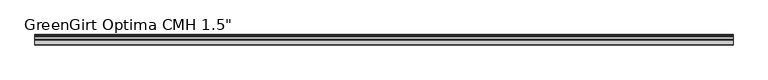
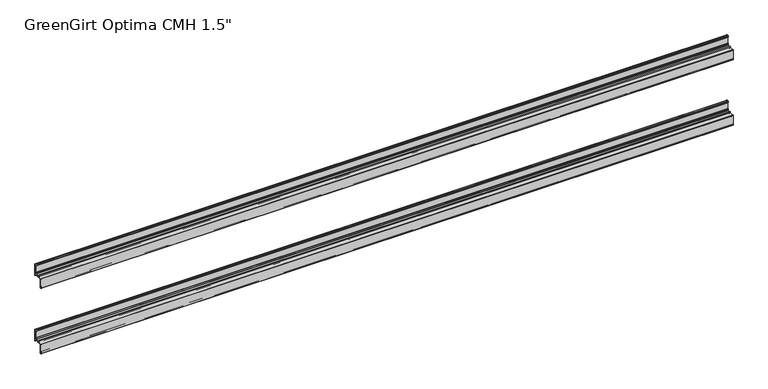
"""IFC4 building model written with IfcOpenShell, lengths in millimetres: fastener geometry."""

from ifc_helpers import new_model, si_unit, frame, origin, place, context, project, spatial, polyline, circle_curve, outline, extrude, source, transform, mapped, element, save
from ifc_brep_helpers import plane_surface, cylinder_surface, revolved_surface, advanced_brep


def fastener_f5cca177(model_context):
    return source(origin(), model_context, "Body", "SolidModel", [
        advanced_brep(
        [(2540.1186361, -2.794, 1390.269), (2540.1186361, -2.794, 1358.9), (2540.1186361, -4.5212, 1358.9), (2540.1186361, -4.5212, 1363.091), (2540.1186361, -6.5532, 1363.091), (2540.1186361, -6.5532, 1358.9), (2540.1186361, -7.3152, 1358.138), (2540.1186361, -17.7601563, 1358.138), (2540.1186361, -17.7601563, 1358.9864433), (2540.1186361, -20.4288947, 1358.9864433), (2540.1186361, -20.4288947, 1358.138), (2540.1186361, -37.3379766, 1358.138), (2540.1186361, -38.0999766, 1357.376), (2540.1186361, -38.1, 1321.5196758), (2540.1186361, -37.3379766, 1320.8), (2540.1186361, -34.4677766, 1320.8), (2540.1186361, -32.4357766, 1322.832), (2540.1186361, -32.4357766, 1325.118), (2540.1186361, -34.4677766, 1325.118), (2540.1186361, -34.4677766, 1324.102), (2540.1186361, -36.1949766, 1324.102), (2540.1186361, -36.1949766, 1355.471), (2540.1186361, -34.4677766, 1355.471), (2540.1186361, -34.4677766, 1351.28), (2540.1186361, -32.4357766, 1351.28), (2540.1186361, -32.4357766, 1355.471), (2540.1186361, -31.6737766, 1356.233), (2540.1186361, -20.4279799, 1356.233), (2540.1186361, -20.4279799, 1355.3840993), (2540.1186361, -17.7601563, 1355.3840993), (2540.1186361, -17.7601563, 1356.233), (2540.1186361, -2.667, 1356.233), (2540.1186361, -1.905, 1355.471), (2540.1186361, -1.905, 1349.375), (2540.1186361, 0.0, 1349.375), (2540.1186361, 0.0, 1392.809), (2540.1186361, -0.762, 1393.571), (2540.1186361, -4.5212, 1393.571), (2540.1186361, -6.5532, 1391.539), (2540.1186361, -6.5532, 1389.253), (2540.1186361, -4.5212, 1389.253), (2540.1186361, -4.5212, 1390.269), (0.0, -2.794, 1390.269), (0.0, -4.5212, 1390.269), (0.0, -4.5212, 1389.253), (0.0, -6.5532, 1389.253), (0.0, -6.5532, 1391.539), (0.0, -4.5212, 1393.571), (0.0, -0.762, 1393.571), (0.0, 0.0, 1392.809), (0.0, 0.0, 1349.375), (0.0, -1.905, 1349.375), (0.0, -1.905, 1355.471), (0.0, -2.667, 1356.233), (0.0, -17.7601563, 1356.233), (0.0, -17.7601563, 1355.3840993), (0.0, -20.4279799, 1355.3840993), (0.0, -20.4279799, 1356.233), (0.0, -31.6737766, 1356.233), (0.0, -32.4357766, 1355.471), (0.0, -32.4357766, 1351.28), (0.0, -34.4677766, 1351.28), (0.0, -34.4677766, 1355.471), (0.0, -36.1949766, 1355.471), (0.0, -36.1949766, 1324.102), (0.0, -34.4677766, 1324.102), (0.0, -34.4677766, 1325.118), (0.0, -32.4357766, 1325.118), (0.0, -32.4357766, 1322.832), (0.0, -34.4677766, 1320.8), (0.0, -37.3379766, 1320.8), (0.0, -38.0999766, 1321.562), (0.0, -38.1, 1357.4033226), (0.0, -37.3379766, 1358.138), (0.0, -20.4288947, 1358.138), (0.0, -20.4288947, 1358.9864433), (0.0, -17.7601563, 1358.9864433), (0.0, -17.7601563, 1358.138), (0.0, -7.3152, 1358.138), (0.0, -6.5532, 1358.9), (0.0, -6.5532, 1363.091), (0.0, -4.5212, 1363.091), (0.0, -4.5212, 1358.9), (0.0, -2.794, 1358.9)],
        [
            (0, 1),
            (1, 2, circle_curve(frame((2540.1186361, -3.6576, 1358.9), z_axis=(-1.0, 0.0, 0.0), x_axis=(0.0, 1.0, 0.0)), 0.8636)),
            (2, 3),
            (3, 4, circle_curve(frame((2540.1186361, -5.5372, 1363.091), z_axis=(1.0, 0.0, 0.0), x_axis=(0.0, 1.0, 0.0)), 1.016)),
            (4, 5),
            (5, 6, circle_curve(frame((2540.1186361, -7.3152, 1358.9), z_axis=(-1.0, 0.0, 0.0), x_axis=(0.0, 1.0, 0.0)), 0.762)),
            (6, 7),
            (7, 8),
            (8, 9, circle_curve(frame((2540.1186361, -19.0945255, 1358.9864433), z_axis=(1.0, 0.0, 0.0), x_axis=(0.0, 1.0, 0.0)), 1.3343692)),
            (9, 10),
            (10, 11),
            (11, 12, circle_curve(frame((2540.1186361, -37.3379766, 1357.376), z_axis=(1.0, 0.0, 0.0), x_axis=(0.0, 1.0, 0.0)), 0.762)),
            (12, 13),
            (13, 14, circle_curve(frame((2540.1186361, -37.3379766, 1321.562), z_axis=(1.0, 0.0, 0.0), x_axis=(0.0, 1.0, 0.0)), 0.762)),
            (14, 15),
            (15, 16, circle_curve(frame((2540.1186361, -34.4677766, 1322.832), z_axis=(1.0, 0.0, 0.0), x_axis=(0.0, 1.0, 0.0)), 2.032)),
            (16, 17),
            (17, 18, circle_curve(frame((2540.1186361, -33.4517766, 1325.118), z_axis=(1.0, 0.0, 0.0), x_axis=(0.0, 1.0, 0.0)), 1.016)),
            (18, 19),
            (19, 20, circle_curve(frame((2540.1186361, -35.3313766, 1324.102), z_axis=(-1.0, 0.0, 0.0), x_axis=(0.0, 1.0, 0.0)), 0.8636)),
            (20, 21),
            (21, 22, circle_curve(frame((2540.1186361, -35.3313766, 1355.471), z_axis=(-1.0, 0.0, 0.0), x_axis=(0.0, 1.0, 0.0)), 0.8636)),
            (22, 23),
            (23, 24, circle_curve(frame((2540.1186361, -33.4517766, 1351.28), z_axis=(1.0, 0.0, 0.0), x_axis=(0.0, 1.0, 0.0)), 1.016)),
            (24, 25),
            (25, 26, circle_curve(frame((2540.1186361, -31.6737766, 1355.471), z_axis=(-1.0, 0.0, 0.0), x_axis=(0.0, 1.0, 0.0)), 0.762)),
            (26, 27),
            (27, 28),
            (28, 29, circle_curve(frame((2540.1186361, -19.0940681, 1355.3840993), z_axis=(1.0, 0.0, 0.0), x_axis=(0.0, 1.0, 0.0)), 1.3339118)),
            (29, 30),
            (30, 31),
            (31, 32, circle_curve(frame((2540.1186361, -2.667, 1355.471), z_axis=(-1.0, 0.0, 0.0), x_axis=(0.0, 1.0, 0.0)), 0.762)),
            (32, 33),
            (33, 34, circle_curve(frame((2540.1186361, -0.9525, 1349.375), z_axis=(1.0, 0.0, 0.0), x_axis=(0.0, 1.0, 0.0)), 0.9525)),
            (34, 35),
            (35, 36, circle_curve(frame((2540.1186361, -0.762, 1392.809), z_axis=(1.0, 0.0, 0.0), x_axis=(0.0, 1.0, 0.0)), 0.762)),
            (36, 37),
            (37, 38, circle_curve(frame((2540.1186361, -4.5212, 1391.539), z_axis=(1.0, 0.0, 0.0), x_axis=(0.0, 1.0, 0.0)), 2.032)),
            (38, 39),
            (39, 40, circle_curve(frame((2540.1186361, -5.5372, 1389.253), z_axis=(1.0, 0.0, 0.0), x_axis=(0.0, 1.0, 0.0)), 1.016)),
            (40, 41),
            (41, 0, circle_curve(frame((2540.1186361, -3.6576, 1390.269), z_axis=(-1.0, 0.0, 0.0), x_axis=(0.0, 1.0, 0.0)), 0.8636)),
            (42, 43, circle_curve(frame((0.0, -3.6576, 1390.269), z_axis=(1.0, 0.0, 0.0), x_axis=(0.0, 1.0, 0.0)), 0.8636)),
            (43, 44),
            (44, 45, circle_curve(frame((0.0, -5.5372, 1389.253), z_axis=(-1.0, 0.0, 0.0), x_axis=(0.0, 1.0, 0.0)), 1.016)),
            (45, 46),
            (46, 47, circle_curve(frame((0.0, -4.5212, 1391.539), z_axis=(-1.0, 0.0, 0.0), x_axis=(0.0, 1.0, 0.0)), 2.032)),
            (47, 48),
            (48, 49, circle_curve(frame((0.0, -0.762, 1392.809), z_axis=(-1.0, 0.0, 0.0), x_axis=(0.0, 1.0, 0.0)), 0.762)),
            (49, 50),
            (50, 51, circle_curve(frame((0.0, -0.9525, 1349.375), z_axis=(-1.0, 0.0, 0.0), x_axis=(0.0, 1.0, 0.0)), 0.9525)),
            (51, 52),
            (52, 53, circle_curve(frame((0.0, -2.667, 1355.471), z_axis=(1.0, 0.0, 0.0), x_axis=(0.0, 1.0, 0.0)), 0.762)),
            (53, 54),
            (54, 55),
            (55, 56, circle_curve(frame((0.0, -19.0940681, 1355.3840993), z_axis=(-1.0, 0.0, 0.0), x_axis=(0.0, 1.0, 0.0)), 1.3339118)),
            (56, 57),
            (57, 58),
            (58, 59, circle_curve(frame((0.0, -31.6737766, 1355.471), z_axis=(1.0, 0.0, 0.0), x_axis=(0.0, 1.0, 0.0)), 0.762)),
            (59, 60),
            (60, 61, circle_curve(frame((0.0, -33.4517766, 1351.28), z_axis=(-1.0, 0.0, 0.0), x_axis=(0.0, 1.0, 0.0)), 1.016)),
            (61, 62),
            (62, 63, circle_curve(frame((0.0, -35.3313766, 1355.471), z_axis=(1.0, 0.0, 0.0), x_axis=(0.0, 1.0, 0.0)), 0.8636)),
            (63, 64),
            (64, 65, circle_curve(frame((0.0, -35.3313766, 1324.102), z_axis=(1.0, 0.0, 0.0), x_axis=(0.0, 1.0, 0.0)), 0.8636)),
            (65, 66),
            (66, 67, circle_curve(frame((0.0, -33.4517766, 1325.118), z_axis=(-1.0, 0.0, 0.0), x_axis=(0.0, 1.0, 0.0)), 1.016)),
            (67, 68),
            (68, 69, circle_curve(frame((0.0, -34.4677766, 1322.832), z_axis=(-1.0, 0.0, 0.0), x_axis=(0.0, 1.0, 0.0)), 2.032)),
            (69, 70),
            (70, 71, circle_curve(frame((0.0, -37.3379766, 1321.562), z_axis=(-1.0, 0.0, 0.0), x_axis=(0.0, 1.0, 0.0)), 0.762)),
            (71, 72),
            (72, 73, circle_curve(frame((0.0, -37.3379766, 1357.376), z_axis=(-1.0, 0.0, 0.0), x_axis=(0.0, 1.0, 0.0)), 0.762)),
            (73, 74),
            (74, 75),
            (75, 76, circle_curve(frame((0.0, -19.0945255, 1358.9864433), z_axis=(-1.0, 0.0, 0.0), x_axis=(0.0, 1.0, 0.0)), 1.3343692)),
            (76, 77),
            (77, 78),
            (78, 79, circle_curve(frame((0.0, -7.3152, 1358.9), z_axis=(1.0, 0.0, 0.0), x_axis=(0.0, 1.0, 0.0)), 0.762)),
            (79, 80),
            (80, 81, circle_curve(frame((0.0, -5.5372, 1363.091), z_axis=(-1.0, 0.0, 0.0), x_axis=(0.0, 1.0, 0.0)), 1.016)),
            (81, 82),
            (82, 83, circle_curve(frame((0.0, -3.6576, 1358.9), z_axis=(1.0, 0.0, 0.0), x_axis=(0.0, 1.0, 0.0)), 0.8636)),
            (83, 42),
            (0, 42),
            (83, 1),
            (82, 2),
            (81, 3),
            (80, 4),
            (79, 5),
            (78, 6),
            (77, 7),
            (76, 8),
            (75, 9),
            (74, 10),
            (73, 11),
            (72, 12),
            (71, 13),
            (70, 14),
            (69, 15),
            (68, 16),
            (67, 17),
            (66, 18),
            (65, 19),
            (64, 20),
            (63, 21),
            (62, 22),
            (61, 23),
            (60, 24),
            (59, 25),
            (58, 26),
            (57, 27),
            (56, 28),
            (55, 29),
            (54, 30),
            (53, 31),
            (52, 32),
            (51, 33),
            (50, 34),
            (49, 35),
            (48, 36),
            (47, 37),
            (46, 38),
            (45, 39),
            (44, 40),
            (43, 41),
        ],
        [
            plane_surface(frame((2540.1186361, -2.794, 1358.9), z_axis=(1.0, 0.0, 0.0), x_axis=(0.0, 0.0, -1.0))),
            plane_surface(frame((0.0, -2.794, 1358.9), z_axis=(-1.0, 0.0, 0.0), x_axis=(0.0, 0.0, 1.0))),
            plane_surface(frame((2540.1186361, -2.794, 1390.269), z_axis=(0.0, -1.0, 0.0), x_axis=(-1.0, 0.0, 0.0))),
            revolved_surface(polyline([(0.0, -2.794, 1358.9), (2540.1186361, -2.794, 1358.9)]), (0.0, -3.6576, 1358.9), (-1.0, 0.0, 0.0)),
            plane_surface(frame((2540.1186361, -4.5212, 1358.9), z_axis=(0.0, 1.0, 0.0), x_axis=(-1.0, 0.0, 0.0))),
            cylinder_surface(frame((0.0, -5.5372, 1363.091), z_axis=(1.0, 0.0, 0.0), x_axis=(0.0, 1.0, 0.0)), 1.016),
            plane_surface(frame((2540.1186361, -6.5532, 1363.091), z_axis=(0.0, -1.0, 0.0), x_axis=(-1.0, 0.0, 0.0))),
            revolved_surface(polyline([(0.0, -6.5532, 1358.9), (2540.1186361, -6.5532, 1358.9)]), (0.0, -7.3152, 1358.9), (-1.0, 0.0, 0.0)),
            plane_surface(frame((2540.1186361, -7.3152, 1358.138), z_axis=(0.0, 0.0, 1.0), x_axis=(-1.0, 0.0, 0.0))),
            plane_surface(frame((2540.1186361, -17.7601563, 1358.138), z_axis=(0.0, 1.0, 0.0), x_axis=(-1.0, 0.0, 0.0))),
            cylinder_surface(frame((0.0, -19.0945255, 1358.9864433), z_axis=(1.0, 0.0, 0.0), x_axis=(0.0, 1.0, 0.0)), 1.3343692),
            plane_surface(frame((2540.1186361, -20.4288947, 1358.9864433), z_axis=(0.0, -1.0, 0.0), x_axis=(-1.0, 0.0, 0.0))),
            plane_surface(frame((2540.1186361, -20.4288947, 1358.138), z_axis=(0.0, 0.0, 1.0), x_axis=(-1.0, 0.0, 0.0))),
            cylinder_surface(frame((0.0, -37.3379766, 1357.376), z_axis=(1.0, 0.0, 0.0), x_axis=(0.0, 1.0, 0.0)), 0.762),
            plane_surface(frame((2540.1186361, -38.1, 1357.4033226), z_axis=(0.0, -1.0, 0.0), x_axis=(-1.0, 0.0, 0.0))),
            cylinder_surface(frame((0.0, -37.3379766, 1321.562), z_axis=(1.0, 0.0, 0.0), x_axis=(0.0, 1.0, 0.0)), 0.762),
            plane_surface(frame((2540.1186361, -37.3379766, 1320.8), z_axis=(0.0, 1.174281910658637e-11, -1.0), x_axis=(-1.0, 0.0, 0.0))),
            cylinder_surface(frame((0.0, -34.4677766, 1322.832), z_axis=(1.0, 0.0, 0.0), x_axis=(0.0, 1.0, 0.0)), 2.032),
            plane_surface(frame((2540.1186361, -32.4357766, 1322.832), z_axis=(0.0, 1.0, 7.57912251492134e-12), x_axis=(-1.0, 0.0, 0.0))),
            cylinder_surface(frame((0.0, -33.4517766, 1325.118), z_axis=(1.0, 0.0, 0.0), x_axis=(0.0, 1.0, 0.0)), 1.016),
            plane_surface(frame((2540.1186361, -34.4677766, 1325.118), z_axis=(0.0, -1.0, -1.7053025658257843e-11), x_axis=(-1.0, 0.0, 0.0))),
            revolved_surface(polyline([(0.0, -34.4677766, 1324.102), (2540.1186361, -34.4677766, 1324.102)]), (0.0, -35.3313766, 1324.102), (-1.0, 0.0, 0.0)),
            plane_surface(frame((2540.1186361, -36.1949766, 1324.102), z_axis=(0.0, 1.0, 0.0), x_axis=(-1.0, 0.0, 0.0))),
            revolved_surface(polyline([(0.0, -34.4677766, 1355.471), (2540.1186361, -34.4677766, 1355.471)]), (0.0, -35.3313766, 1355.471), (-1.0, 0.0, 0.0)),
            plane_surface(frame((2540.1186361, -34.4677766, 1355.471), z_axis=(0.0, -1.0, 0.0), x_axis=(-1.0, 0.0, 0.0))),
            cylinder_surface(frame((0.0, -33.4517766, 1351.28), z_axis=(1.0, 0.0, 0.0), x_axis=(0.0, 1.0, 0.0)), 1.016),
            plane_surface(frame((2540.1186361, -32.4357766, 1351.28), z_axis=(0.0, 1.0, 0.0), x_axis=(-1.0, 0.0, 0.0))),
            revolved_surface(polyline([(0.0, -30.9117766, 1355.471), (2540.1186361, -30.9117766, 1355.471)]), (0.0, -31.6737766, 1355.471), (-1.0, 0.0, 0.0)),
            plane_surface(frame((2540.1186361, -31.6737766, 1356.233), z_axis=(0.0, 0.0, -1.0), x_axis=(-1.0, 0.0, 0.0))),
            plane_surface(frame((2540.1186361, -20.4279799, 1356.233), z_axis=(0.0, -1.0, 0.0), x_axis=(-1.0, 0.0, 0.0))),
            cylinder_surface(frame((0.0, -19.0940681, 1355.3840993), z_axis=(1.0, 0.0, 0.0), x_axis=(0.0, 1.0, 0.0)), 1.3339118),
            plane_surface(frame((2540.1186361, -17.7601563, 1355.3840993), z_axis=(0.0, 1.0, 0.0), x_axis=(-1.0, 0.0, 0.0))),
            plane_surface(frame((2540.1186361, -17.7601563, 1356.233), z_axis=(0.0, 0.0, -1.0), x_axis=(-1.0, 0.0, 0.0))),
            revolved_surface(polyline([(0.0, -1.9049999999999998, 1355.471), (2540.1186361, -1.9049999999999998, 1355.471)]), (0.0, -2.667, 1355.471), (-1.0, 0.0, 0.0)),
            plane_surface(frame((2540.1186361, -1.905, 1355.471), z_axis=(0.0, -1.0, 0.0), x_axis=(-1.0, 0.0, 0.0))),
            cylinder_surface(frame((0.0, -0.9525, 1349.375), z_axis=(1.0, 0.0, 0.0), x_axis=(0.0, 1.0, 0.0)), 0.9525),
            plane_surface(frame((2540.1186361, 0.0, 1349.375), z_axis=(0.0, 1.0, 0.0), x_axis=(-1.0, 0.0, 0.0))),
            cylinder_surface(frame((0.0, -0.762, 1392.809), z_axis=(1.0, 0.0, 0.0), x_axis=(0.0, 1.0, 0.0)), 0.762),
            plane_surface(frame((2540.1186361, -0.762, 1393.571), z_axis=(0.0, 2.6818637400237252e-11, 1.0), x_axis=(-1.0, 0.0, 0.0))),
            cylinder_surface(frame((0.0, -4.5212, 1391.539), z_axis=(1.0, 0.0, 0.0), x_axis=(0.0, 1.0, 0.0)), 2.032),
            plane_surface(frame((2540.1186361, -6.5532, 1391.539), z_axis=(0.0, -1.0, 0.0), x_axis=(-1.0, 0.0, 0.0))),
            cylinder_surface(frame((0.0, -5.5372, 1389.253), z_axis=(1.0, 0.0, 0.0), x_axis=(0.0, 1.0, 0.0)), 1.016),
            plane_surface(frame((2540.1186361, -4.5212, 1389.253), z_axis=(0.0, 1.0, 0.0), x_axis=(-1.0, 0.0, 0.0))),
            revolved_surface(polyline([(0.0, -2.794, 1390.269), (2540.1186361, -2.794, 1390.269)]), (0.0, -3.6576, 1390.269), (-1.0, 0.0, 0.0)),
        ],
        [
            (0, [[1, 2, 3, 4, 5, 6, 7, 8, 9, 10, 11, 12, 13, 14, 15, 16, 17, 18, 19, 20, 21, 22, 23, 24, 25, 26, 27, 28, 29, 30, 31, 32, 33, 34, 35, 36, 37, 38, 39, 40, 41, 42]]),
            (1, [[43, 44, 45, 46, 47, 48, 49, 50, 51, 52, 53, 54, 55, 56, 57, 58, 59, 60, 61, 62, 63, 64, 65, 66, 67, 68, 69, 70, 71, 72, 73, 74, 75, 76, 77, 78, 79, 80, 81, 82, 83, 84]]),
            (2, [[-1, 85, -84, 86]]),
            (3, [[-2, -86, -83, 87]]),
            (4, [[-3, -87, -82, 88]]),
            (5, [[-4, -88, -81, 89]]),
            (6, [[-5, -89, -80, 90]]),
            (7, [[-6, -90, -79, 91]]),
            (8, [[-7, -91, -78, 92]]),
            (9, [[-8, -92, -77, 93]]),
            (10, [[-9, -93, -76, 94]]),
            (11, [[-10, -94, -75, 95]]),
            (12, [[-11, -95, -74, 96]]),
            (13, [[-12, -96, -73, 97]]),
            (14, [[-13, -97, -72, 98]]),
            (15, [[-14, -98, -71, 99]]),
            (16, [[-15, -99, -70, 100]]),
            (17, [[-16, -100, -69, 101]]),
            (18, [[-17, -101, -68, 102]]),
            (19, [[-18, -102, -67, 103]]),
            (20, [[-19, -103, -66, 104]]),
            (21, [[-20, -104, -65, 105]]),
            (22, [[-21, -105, -64, 106]]),
            (23, [[-22, -106, -63, 107]]),
            (24, [[-23, -107, -62, 108]]),
            (25, [[-24, -108, -61, 109]]),
            (26, [[-25, -109, -60, 110]]),
            (27, [[-26, -110, -59, 111]]),
            (28, [[-27, -111, -58, 112]]),
            (29, [[-28, -112, -57, 113]]),
            (30, [[-29, -113, -56, 114]]),
            (31, [[-30, -114, -55, 115]]),
            (32, [[-31, -115, -54, 116]]),
            (33, [[-32, -116, -53, 117]]),
            (34, [[-33, -117, -52, 118]]),
            (35, [[-34, -118, -51, 119]]),
            (36, [[-35, -119, -50, 120]]),
            (37, [[-36, -120, -49, 121]]),
            (38, [[-37, -121, -48, 122]]),
            (39, [[-38, -122, -47, 123]]),
            (40, [[-39, -123, -46, 124]]),
            (41, [[-40, -124, -45, 125]]),
            (42, [[-41, -125, -44, 126]]),
            (43, [[-42, -126, -43, -85]]),
        ],
    ),
        extrude(outline(polyline([(2540.1186361, -2.794), (2540.1186361, -4.5212), (0.0, -4.5212), (0.0, -2.794), (2540.1186361, -2.794)])), frame((0.0, 0.0, 1359.281), z_axis=(0.0, 0.0, 1.0), x_axis=(1.0, 0.0, 0.0)), (0.0, 0.0, 1.0), 30.988),
        extrude(outline(polyline([(2540.1186361, -34.4677766), (2540.1186361, -36.1949766), (0.0, -36.1949766), (0.0, -34.4677766), (2540.1186361, -34.4677766)])), frame((0.0, 0.0, 1324.102), z_axis=(0.0, 0.0, 1.0), x_axis=(1.0, 0.0, 0.0)), (0.0, 0.0, 1.0), 30.988),
        advanced_brep(
        [(2540.1186361, -2.794, 1136.269), (2540.1186361, -2.794, 1104.9), (2540.1186361, -4.5212, 1104.9), (2540.1186361, -4.5212, 1109.091), (2540.1186361, -6.5532, 1109.091), (2540.1186361, -6.5532, 1104.9), (2540.1186361, -7.3152, 1104.138), (2540.1186361, -17.7601563, 1104.138), (2540.1186361, -17.7601563, 1104.9864433), (2540.1186361, -20.4288947, 1104.9864433), (2540.1186361, -20.4288947, 1104.138), (2540.1186361, -37.3379766, 1104.138), (2540.1186361, -38.0999766, 1103.376), (2540.1186361, -38.1, 1067.5196758), (2540.1186361, -37.3379766, 1066.8), (2540.1186361, -34.4677766, 1066.8), (2540.1186361, -32.4357766, 1068.832), (2540.1186361, -32.4357766, 1071.118), (2540.1186361, -34.4677766, 1071.118), (2540.1186361, -34.4677766, 1070.102), (2540.1186361, -36.1949766, 1070.102), (2540.1186361, -36.1949766, 1101.471), (2540.1186361, -34.4677766, 1101.471), (2540.1186361, -34.4677766, 1097.28), (2540.1186361, -32.4357766, 1097.28), (2540.1186361, -32.4357766, 1101.471), (2540.1186361, -31.6737766, 1102.233), (2540.1186361, -20.4279799, 1102.233), (2540.1186361, -20.4279799, 1101.3840993), (2540.1186361, -17.7601563, 1101.3840993), (2540.1186361, -17.7601563, 1102.233), (2540.1186361, -2.667, 1102.233), (2540.1186361, -1.905, 1101.471), (2540.1186361, -1.905, 1095.375), (2540.1186361, 0.0, 1095.375), (2540.1186361, 0.0, 1138.809), (2540.1186361, -0.762, 1139.571), (2540.1186361, -4.5212, 1139.571), (2540.1186361, -6.5532, 1137.539), (2540.1186361, -6.5532, 1135.253), (2540.1186361, -4.5212, 1135.253), (2540.1186361, -4.5212, 1136.269), (0.0, -2.794, 1136.269), (0.0, -4.5212, 1136.269), (0.0, -4.5212, 1135.253), (0.0, -6.5532, 1135.253), (0.0, -6.5532, 1137.539), (0.0, -4.5212, 1139.571), (0.0, -0.762, 1139.571), (0.0, 0.0, 1138.809), (0.0, 0.0, 1095.375), (0.0, -1.905, 1095.375), (0.0, -1.905, 1101.471), (0.0, -2.667, 1102.233), (0.0, -17.7601563, 1102.233), (0.0, -17.7601563, 1101.3840993), (0.0, -20.4279799, 1101.3840993), (0.0, -20.4279799, 1102.233), (0.0, -31.6737766, 1102.233), (0.0, -32.4357766, 1101.471), (0.0, -32.4357766, 1097.28), (0.0, -34.4677766, 1097.28), (0.0, -34.4677766, 1101.471), (0.0, -36.1949766, 1101.471), (0.0, -36.1949766, 1070.102), (0.0, -34.4677766, 1070.102), (0.0, -34.4677766, 1071.118), (0.0, -32.4357766, 1071.118), (0.0, -32.4357766, 1068.832), (0.0, -34.4677766, 1066.8), (0.0, -37.3379766, 1066.8), (0.0, -38.0999766, 1067.562), (0.0, -38.1, 1103.4033226), (0.0, -37.3379766, 1104.138), (0.0, -20.4288947, 1104.138), (0.0, -20.4288947, 1104.9864433), (0.0, -17.7601563, 1104.9864433), (0.0, -17.7601563, 1104.138), (0.0, -7.3152, 1104.138), (0.0, -6.5532, 1104.9), (0.0, -6.5532, 1109.091), (0.0, -4.5212, 1109.091), (0.0, -4.5212, 1104.9), (0.0, -2.794, 1104.9)],
        [
            (0, 1),
            (1, 2, circle_curve(frame((2540.1186361, -3.6576, 1104.9), z_axis=(-1.0, 0.0, 0.0), x_axis=(0.0, 1.0, 0.0)), 0.8636)),
            (2, 3),
            (3, 4, circle_curve(frame((2540.1186361, -5.5372, 1109.091), z_axis=(1.0, 0.0, 0.0), x_axis=(0.0, 1.0, 0.0)), 1.016)),
            (4, 5),
            (5, 6, circle_curve(frame((2540.1186361, -7.3152, 1104.9), z_axis=(-1.0, 0.0, 0.0), x_axis=(0.0, 1.0, 0.0)), 0.762)),
            (6, 7),
            (7, 8),
            (8, 9, circle_curve(frame((2540.1186361, -19.0945255, 1104.9864433), z_axis=(1.0, 0.0, 0.0), x_axis=(0.0, 1.0, 0.0)), 1.3343692)),
            (9, 10),
            (10, 11),
            (11, 12, circle_curve(frame((2540.1186361, -37.3379766, 1103.376), z_axis=(1.0, 0.0, 0.0), x_axis=(0.0, 1.0, 0.0)), 0.762)),
            (12, 13),
            (13, 14, circle_curve(frame((2540.1186361, -37.3379766, 1067.562), z_axis=(1.0, 0.0, 0.0), x_axis=(0.0, 1.0, 0.0)), 0.762)),
            (14, 15),
            (15, 16, circle_curve(frame((2540.1186361, -34.4677766, 1068.832), z_axis=(1.0, 0.0, 0.0), x_axis=(0.0, 1.0, 0.0)), 2.032)),
            (16, 17),
            (17, 18, circle_curve(frame((2540.1186361, -33.4517766, 1071.118), z_axis=(1.0, 0.0, 0.0), x_axis=(0.0, 1.0, 0.0)), 1.016)),
            (18, 19),
            (19, 20, circle_curve(frame((2540.1186361, -35.3313766, 1070.102), z_axis=(-1.0, 0.0, 0.0), x_axis=(0.0, 1.0, 0.0)), 0.8636)),
            (20, 21),
            (21, 22, circle_curve(frame((2540.1186361, -35.3313766, 1101.471), z_axis=(-1.0, 0.0, 0.0), x_axis=(0.0, 1.0, 0.0)), 0.8636)),
            (22, 23),
            (23, 24, circle_curve(frame((2540.1186361, -33.4517766, 1097.28), z_axis=(1.0, 0.0, 0.0), x_axis=(0.0, 1.0, 0.0)), 1.016)),
            (24, 25),
            (25, 26, circle_curve(frame((2540.1186361, -31.6737766, 1101.471), z_axis=(-1.0, 0.0, 0.0), x_axis=(0.0, 1.0, 0.0)), 0.762)),
            (26, 27),
            (27, 28),
            (28, 29, circle_curve(frame((2540.1186361, -19.0940681, 1101.3840993), z_axis=(1.0, 0.0, 0.0), x_axis=(0.0, 1.0, 0.0)), 1.3339118)),
            (29, 30),
            (30, 31),
            (31, 32, circle_curve(frame((2540.1186361, -2.667, 1101.471), z_axis=(-1.0, 0.0, 0.0), x_axis=(0.0, 1.0, 0.0)), 0.762)),
            (32, 33),
            (33, 34, circle_curve(frame((2540.1186361, -0.9525, 1095.375), z_axis=(1.0, 0.0, 0.0), x_axis=(0.0, 1.0, 0.0)), 0.9525)),
            (34, 35),
            (35, 36, circle_curve(frame((2540.1186361, -0.762, 1138.809), z_axis=(1.0, 0.0, 0.0), x_axis=(0.0, 1.0, 0.0)), 0.762)),
            (36, 37),
            (37, 38, circle_curve(frame((2540.1186361, -4.5212, 1137.539), z_axis=(1.0, 0.0, 0.0), x_axis=(0.0, 1.0, 0.0)), 2.032)),
            (38, 39),
            (39, 40, circle_curve(frame((2540.1186361, -5.5372, 1135.253), z_axis=(1.0, 0.0, 0.0), x_axis=(0.0, 1.0, 0.0)), 1.016)),
            (40, 41),
            (41, 0, circle_curve(frame((2540.1186361, -3.6576, 1136.269), z_axis=(-1.0, 0.0, 0.0), x_axis=(0.0, 1.0, 0.0)), 0.8636)),
            (42, 43, circle_curve(frame((0.0, -3.6576, 1136.269), z_axis=(1.0, 0.0, 0.0), x_axis=(0.0, 1.0, 0.0)), 0.8636)),
            (43, 44),
            (44, 45, circle_curve(frame((0.0, -5.5372, 1135.253), z_axis=(-1.0, 0.0, 0.0), x_axis=(0.0, 1.0, 0.0)), 1.016)),
            (45, 46),
            (46, 47, circle_curve(frame((0.0, -4.5212, 1137.539), z_axis=(-1.0, 0.0, 0.0), x_axis=(0.0, 1.0, 0.0)), 2.032)),
            (47, 48),
            (48, 49, circle_curve(frame((0.0, -0.762, 1138.809), z_axis=(-1.0, 0.0, 0.0), x_axis=(0.0, 1.0, 0.0)), 0.762)),
            (49, 50),
            (50, 51, circle_curve(frame((0.0, -0.9525, 1095.375), z_axis=(-1.0, 0.0, 0.0), x_axis=(0.0, 1.0, 0.0)), 0.9525)),
            (51, 52),
            (52, 53, circle_curve(frame((0.0, -2.667, 1101.471), z_axis=(1.0, 0.0, 0.0), x_axis=(0.0, 1.0, 0.0)), 0.762)),
            (53, 54),
            (54, 55),
            (55, 56, circle_curve(frame((0.0, -19.0940681, 1101.3840993), z_axis=(-1.0, 0.0, 0.0), x_axis=(0.0, 1.0, 0.0)), 1.3339118)),
            (56, 57),
            (57, 58),
            (58, 59, circle_curve(frame((0.0, -31.6737766, 1101.471), z_axis=(1.0, 0.0, 0.0), x_axis=(0.0, 1.0, 0.0)), 0.762)),
            (59, 60),
            (60, 61, circle_curve(frame((0.0, -33.4517766, 1097.28), z_axis=(-1.0, 0.0, 0.0), x_axis=(0.0, 1.0, 0.0)), 1.016)),
            (61, 62),
            (62, 63, circle_curve(frame((0.0, -35.3313766, 1101.471), z_axis=(1.0, 0.0, 0.0), x_axis=(0.0, 1.0, 0.0)), 0.8636)),
            (63, 64),
            (64, 65, circle_curve(frame((0.0, -35.3313766, 1070.102), z_axis=(1.0, 0.0, 0.0), x_axis=(0.0, 1.0, 0.0)), 0.8636)),
            (65, 66),
            (66, 67, circle_curve(frame((0.0, -33.4517766, 1071.118), z_axis=(-1.0, 0.0, 0.0), x_axis=(0.0, 1.0, 0.0)), 1.016)),
            (67, 68),
            (68, 69, circle_curve(frame((0.0, -34.4677766, 1068.832), z_axis=(-1.0, 0.0, 0.0), x_axis=(0.0, 1.0, 0.0)), 2.032)),
            (69, 70),
            (70, 71, circle_curve(frame((0.0, -37.3379766, 1067.562), z_axis=(-1.0, 0.0, 0.0), x_axis=(0.0, 1.0, 0.0)), 0.762)),
            (71, 72),
            (72, 73, circle_curve(frame((0.0, -37.3379766, 1103.376), z_axis=(-1.0, 0.0, 0.0), x_axis=(0.0, 1.0, 0.0)), 0.762)),
            (73, 74),
            (74, 75),
            (75, 76, circle_curve(frame((0.0, -19.0945255, 1104.9864433), z_axis=(-1.0, 0.0, 0.0), x_axis=(0.0, 1.0, 0.0)), 1.3343692)),
            (76, 77),
            (77, 78),
            (78, 79, circle_curve(frame((0.0, -7.3152, 1104.9), z_axis=(1.0, 0.0, 0.0), x_axis=(0.0, 1.0, 0.0)), 0.762)),
            (79, 80),
            (80, 81, circle_curve(frame((0.0, -5.5372, 1109.091), z_axis=(-1.0, 0.0, 0.0), x_axis=(0.0, 1.0, 0.0)), 1.016)),
            (81, 82),
            (82, 83, circle_curve(frame((0.0, -3.6576, 1104.9), z_axis=(1.0, 0.0, 0.0), x_axis=(0.0, 1.0, 0.0)), 0.8636)),
            (83, 42),
            (0, 42),
            (83, 1),
            (82, 2),
            (81, 3),
            (80, 4),
            (79, 5),
            (78, 6),
            (77, 7),
            (76, 8),
            (75, 9),
            (74, 10),
            (73, 11),
            (72, 12),
            (71, 13),
            (70, 14),
            (69, 15),
            (68, 16),
            (67, 17),
            (66, 18),
            (65, 19),
            (64, 20),
            (63, 21),
            (62, 22),
            (61, 23),
            (60, 24),
            (59, 25),
            (58, 26),
            (57, 27),
            (56, 28),
            (55, 29),
            (54, 30),
            (53, 31),
            (52, 32),
            (51, 33),
            (50, 34),
            (49, 35),
            (48, 36),
            (47, 37),
            (46, 38),
            (45, 39),
            (44, 40),
            (43, 41),
        ],
        [
            plane_surface(frame((2540.1186361, -2.794, 1104.9), z_axis=(1.0, 0.0, 0.0), x_axis=(0.0, 0.0, -1.0))),
            plane_surface(frame((0.0, -2.794, 1104.9), z_axis=(-1.0, 0.0, 0.0), x_axis=(0.0, 0.0, 1.0))),
            plane_surface(frame((2540.1186361, -2.794, 1136.269), z_axis=(0.0, -1.0, 0.0), x_axis=(-1.0, 0.0, 0.0))),
            revolved_surface(polyline([(0.0, -2.794, 1104.9), (2540.1186361, -2.794, 1104.9)]), (0.0, -3.6576, 1104.9), (-1.0, 0.0, 0.0)),
            plane_surface(frame((2540.1186361, -4.5212, 1104.9), z_axis=(0.0, 1.0, 0.0), x_axis=(-1.0, 0.0, 0.0))),
            cylinder_surface(frame((0.0, -5.5372, 1109.091), z_axis=(1.0, 0.0, 0.0), x_axis=(0.0, 1.0, 0.0)), 1.016),
            plane_surface(frame((2540.1186361, -6.5532, 1109.091), z_axis=(0.0, -1.0, 0.0), x_axis=(-1.0, 0.0, 0.0))),
            revolved_surface(polyline([(0.0, -6.5532, 1104.9), (2540.1186361, -6.5532, 1104.9)]), (0.0, -7.3152, 1104.9), (-1.0, 0.0, 0.0)),
            plane_surface(frame((2540.1186361, -7.3152, 1104.138), z_axis=(0.0, 0.0, 1.0), x_axis=(-1.0, 0.0, 0.0))),
            plane_surface(frame((2540.1186361, -17.7601563, 1104.138), z_axis=(0.0, 1.0, 0.0), x_axis=(-1.0, 0.0, 0.0))),
            cylinder_surface(frame((0.0, -19.0945255, 1104.9864433), z_axis=(1.0, 0.0, 0.0), x_axis=(0.0, 1.0, 0.0)), 1.3343692),
            plane_surface(frame((2540.1186361, -20.4288947, 1104.9864433), z_axis=(0.0, -1.0, 0.0), x_axis=(-1.0, 0.0, 0.0))),
            plane_surface(frame((2540.1186361, -20.4288947, 1104.138), z_axis=(0.0, 0.0, 1.0), x_axis=(-1.0, 0.0, 0.0))),
            cylinder_surface(frame((0.0, -37.3379766, 1103.376), z_axis=(1.0, 0.0, 0.0), x_axis=(0.0, 1.0, 0.0)), 0.762),
            plane_surface(frame((2540.1186361, -38.1, 1103.4033226), z_axis=(0.0, -1.0, 0.0), x_axis=(-1.0, 0.0, 0.0))),
            cylinder_surface(frame((0.0, -37.3379766, 1067.562), z_axis=(1.0, 0.0, 0.0), x_axis=(0.0, 1.0, 0.0)), 0.762),
            plane_surface(frame((2540.1186361, -37.3379766, 1066.8), z_axis=(0.0, 1.174281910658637e-11, -1.0), x_axis=(-1.0, 0.0, 0.0))),
            cylinder_surface(frame((0.0, -34.4677766, 1068.832), z_axis=(1.0, 0.0, 0.0), x_axis=(0.0, 1.0, 0.0)), 2.032),
            plane_surface(frame((2540.1186361, -32.4357766, 1068.832), z_axis=(0.0, 1.0, 7.57912251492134e-12), x_axis=(-1.0, 0.0, 0.0))),
            cylinder_surface(frame((0.0, -33.4517766, 1071.118), z_axis=(1.0, 0.0, 0.0), x_axis=(0.0, 1.0, 0.0)), 1.016),
            plane_surface(frame((2540.1186361, -34.4677766, 1071.118), z_axis=(0.0, -1.0, -1.7053025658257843e-11), x_axis=(-1.0, 0.0, 0.0))),
            revolved_surface(polyline([(0.0, -34.4677766, 1070.102), (2540.1186361, -34.4677766, 1070.102)]), (0.0, -35.3313766, 1070.102), (-1.0, 0.0, 0.0)),
            plane_surface(frame((2540.1186361, -36.1949766, 1070.102), z_axis=(0.0, 1.0, 0.0), x_axis=(-1.0, 0.0, 0.0))),
            revolved_surface(polyline([(0.0, -34.4677766, 1101.471), (2540.1186361, -34.4677766, 1101.471)]), (0.0, -35.3313766, 1101.471), (-1.0, 0.0, 0.0)),
            plane_surface(frame((2540.1186361, -34.4677766, 1101.471), z_axis=(0.0, -1.0, 0.0), x_axis=(-1.0, 0.0, 0.0))),
            cylinder_surface(frame((0.0, -33.4517766, 1097.28), z_axis=(1.0, 0.0, 0.0), x_axis=(0.0, 1.0, 0.0)), 1.016),
            plane_surface(frame((2540.1186361, -32.4357766, 1097.28), z_axis=(0.0, 1.0, 0.0), x_axis=(-1.0, 0.0, 0.0))),
            revolved_surface(polyline([(0.0, -30.9117766, 1101.471), (2540.1186361, -30.9117766, 1101.471)]), (0.0, -31.6737766, 1101.471), (-1.0, 0.0, 0.0)),
            plane_surface(frame((2540.1186361, -31.6737766, 1102.233), z_axis=(0.0, 0.0, -1.0), x_axis=(-1.0, 0.0, 0.0))),
            plane_surface(frame((2540.1186361, -20.4279799, 1102.233), z_axis=(0.0, -1.0, 0.0), x_axis=(-1.0, 0.0, 0.0))),
            cylinder_surface(frame((0.0, -19.0940681, 1101.3840993), z_axis=(1.0, 0.0, 0.0), x_axis=(0.0, 1.0, 0.0)), 1.3339118),
            plane_surface(frame((2540.1186361, -17.7601563, 1101.3840993), z_axis=(0.0, 1.0, 0.0), x_axis=(-1.0, 0.0, 0.0))),
            plane_surface(frame((2540.1186361, -17.7601563, 1102.233), z_axis=(0.0, 0.0, -1.0), x_axis=(-1.0, 0.0, 0.0))),
            revolved_surface(polyline([(0.0, -1.9049999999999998, 1101.471), (2540.1186361, -1.9049999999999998, 1101.471)]), (0.0, -2.667, 1101.471), (-1.0, 0.0, 0.0)),
            plane_surface(frame((2540.1186361, -1.905, 1101.471), z_axis=(0.0, -1.0, 0.0), x_axis=(-1.0, 0.0, 0.0))),
            cylinder_surface(frame((0.0, -0.9525, 1095.375), z_axis=(1.0, 0.0, 0.0), x_axis=(0.0, 1.0, 0.0)), 0.9525),
            plane_surface(frame((2540.1186361, 0.0, 1095.375), z_axis=(0.0, 1.0, 0.0), x_axis=(-1.0, 0.0, 0.0))),
            cylinder_surface(frame((0.0, -0.762, 1138.809), z_axis=(1.0, 0.0, 0.0), x_axis=(0.0, 1.0, 0.0)), 0.762),
            plane_surface(frame((2540.1186361, -0.762, 1139.571), z_axis=(0.0, 2.6818637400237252e-11, 1.0), x_axis=(-1.0, 0.0, 0.0))),
            cylinder_surface(frame((0.0, -4.5212, 1137.539), z_axis=(1.0, 0.0, 0.0), x_axis=(0.0, 1.0, 0.0)), 2.032),
            plane_surface(frame((2540.1186361, -6.5532, 1137.539), z_axis=(0.0, -1.0, 0.0), x_axis=(-1.0, 0.0, 0.0))),
            cylinder_surface(frame((0.0, -5.5372, 1135.253), z_axis=(1.0, 0.0, 0.0), x_axis=(0.0, 1.0, 0.0)), 1.016),
            plane_surface(frame((2540.1186361, -4.5212, 1135.253), z_axis=(0.0, 1.0, 0.0), x_axis=(-1.0, 0.0, 0.0))),
            revolved_surface(polyline([(0.0, -2.794, 1136.269), (2540.1186361, -2.794, 1136.269)]), (0.0, -3.6576, 1136.269), (-1.0, 0.0, 0.0)),
        ],
        [
            (0, [[1, 2, 3, 4, 5, 6, 7, 8, 9, 10, 11, 12, 13, 14, 15, 16, 17, 18, 19, 20, 21, 22, 23, 24, 25, 26, 27, 28, 29, 30, 31, 32, 33, 34, 35, 36, 37, 38, 39, 40, 41, 42]]),
            (1, [[43, 44, 45, 46, 47, 48, 49, 50, 51, 52, 53, 54, 55, 56, 57, 58, 59, 60, 61, 62, 63, 64, 65, 66, 67, 68, 69, 70, 71, 72, 73, 74, 75, 76, 77, 78, 79, 80, 81, 82, 83, 84]]),
            (2, [[-1, 85, -84, 86]]),
            (3, [[-2, -86, -83, 87]]),
            (4, [[-3, -87, -82, 88]]),
            (5, [[-4, -88, -81, 89]]),
            (6, [[-5, -89, -80, 90]]),
            (7, [[-6, -90, -79, 91]]),
            (8, [[-7, -91, -78, 92]]),
            (9, [[-8, -92, -77, 93]]),
            (10, [[-9, -93, -76, 94]]),
            (11, [[-10, -94, -75, 95]]),
            (12, [[-11, -95, -74, 96]]),
            (13, [[-12, -96, -73, 97]]),
            (14, [[-13, -97, -72, 98]]),
            (15, [[-14, -98, -71, 99]]),
            (16, [[-15, -99, -70, 100]]),
            (17, [[-16, -100, -69, 101]]),
            (18, [[-17, -101, -68, 102]]),
            (19, [[-18, -102, -67, 103]]),
            (20, [[-19, -103, -66, 104]]),
            (21, [[-20, -104, -65, 105]]),
            (22, [[-21, -105, -64, 106]]),
            (23, [[-22, -106, -63, 107]]),
            (24, [[-23, -107, -62, 108]]),
            (25, [[-24, -108, -61, 109]]),
            (26, [[-25, -109, -60, 110]]),
            (27, [[-26, -110, -59, 111]]),
            (28, [[-27, -111, -58, 112]]),
            (29, [[-28, -112, -57, 113]]),
            (30, [[-29, -113, -56, 114]]),
            (31, [[-30, -114, -55, 115]]),
            (32, [[-31, -115, -54, 116]]),
            (33, [[-32, -116, -53, 117]]),
            (34, [[-33, -117, -52, 118]]),
            (35, [[-34, -118, -51, 119]]),
            (36, [[-35, -119, -50, 120]]),
            (37, [[-36, -120, -49, 121]]),
            (38, [[-37, -121, -48, 122]]),
            (39, [[-38, -122, -47, 123]]),
            (40, [[-39, -123, -46, 124]]),
            (41, [[-40, -124, -45, 125]]),
            (42, [[-41, -125, -44, 126]]),
            (43, [[-42, -126, -43, -85]]),
        ],
    ),
        extrude(outline(polyline([(2540.1186361, -2.794), (2540.1186361, -4.5212), (0.0, -4.5212), (0.0, -2.794), (2540.1186361, -2.794)])), frame((0.0, 0.0, 1105.281), z_axis=(0.0, 0.0, 1.0), x_axis=(1.0, 0.0, 0.0)), (0.0, 0.0, 1.0), 30.988),
        extrude(outline(polyline([(2540.1186361, -34.4677766), (2540.1186361, -36.1949766), (0.0, -36.1949766), (0.0, -34.4677766), (2540.1186361, -34.4677766)])), frame((0.0, 0.0, 1070.102), z_axis=(0.0, 0.0, 1.0), x_axis=(1.0, 0.0, 0.0)), (0.0, 0.0, 1.0), 30.988),
    ])


if __name__ == "__main__":
    model = new_model("IFC4")
    model_context = context("Model", 3, world=origin())
    ifc_project = project(units=[si_unit("LENGTHUNIT", "METRE", prefix="MILLI")], contexts=[model_context])
    site = spatial("IfcSite", under=ifc_project)
    building = spatial("IfcBuilding", under=site)
    placement = place(None, origin())
    fastener_shape = fastener_f5cca177(model_context)
    element("IfcFastener", 1, ObjectType="Structural-Supporting-Components_Advanced-Architectural-Products_GreenGirt-Optima-CMH-System : GreenGirt Optima CMH 1.5\"", at=placement, inside=building, context=model_context, shape_type="MappedRepresentation", body=[
        mapped(fastener_shape, transform((0.0, 0.0, 0.0), x_axis=(1.0, 0.0, 0.0), y_axis=(0.0, 1.0, 0.0), z_axis=(0.0, 0.0, 1.0))),
    ])
    save(model, "model.ifc")
